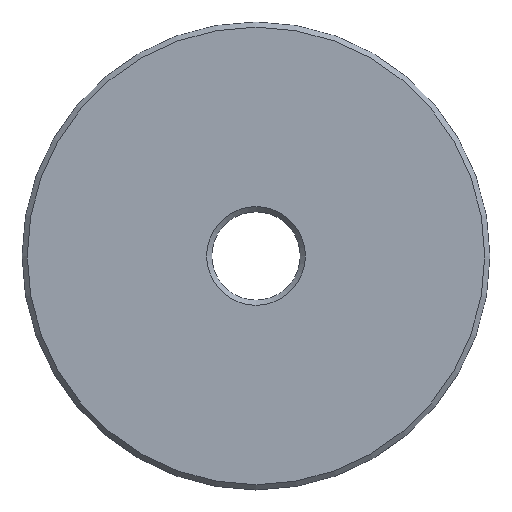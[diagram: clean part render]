
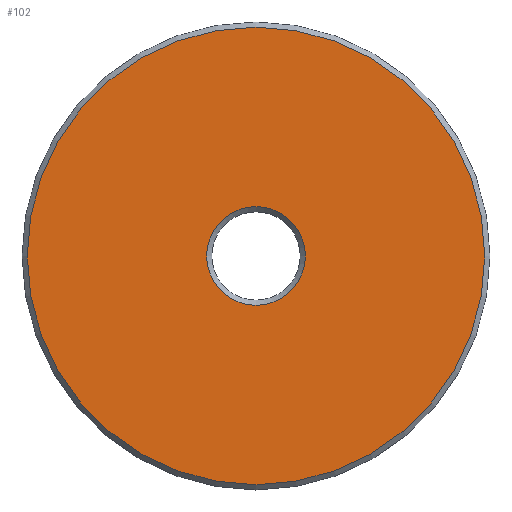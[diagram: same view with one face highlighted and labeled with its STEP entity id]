
A CAD part, top view. The second image highlights one B-rep face of the part: STEP entity #102.
In plain terms, the highlighted planar face has unit normal (0, 0, 1).
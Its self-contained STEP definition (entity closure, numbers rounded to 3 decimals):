
#102=ADVANCED_FACE('',(#112,#113),#110,.T.);
#110=PLANE('',#187);
#112=FACE_BOUND('',#128,.T.);
#113=FACE_BOUND('',#129,.T.);
#128=EDGE_LOOP('',(#144));
#129=EDGE_LOOP('',(#145));
#144=ORIENTED_EDGE('',*,*,#168,.T.);
#145=ORIENTED_EDGE('',*,*,#169,.T.);
#160=VERTEX_POINT('',#237);
#161=VERTEX_POINT('',#239);
#168=EDGE_CURVE('',#160,#160,#176,.T.);
#169=EDGE_CURVE('',#161,#161,#177,.T.);
#176=CIRCLE('',#185,4.75);
#177=CIRCLE('',#186,22.);
#185=AXIS2_PLACEMENT_3D('',#236,#203,#204);
#186=AXIS2_PLACEMENT_3D('',#238,#205,#206);
#187=AXIS2_PLACEMENT_3D('',#240,#207,#208);
#203=DIRECTION('',(0.,0.,-1.));
#204=DIRECTION('',(1.,0.,0.));
#205=DIRECTION('',(0.,0.,1.));
#206=DIRECTION('',(1.,0.,0.));
#207=DIRECTION('',(0.,0.,1.));
#208=DIRECTION('',(1.,0.,0.));
#236=CARTESIAN_POINT('',(0.,0.,5.));
#237=CARTESIAN_POINT('',(4.75,0.,5.));
#238=CARTESIAN_POINT('',(0.,0.,5.));
#239=CARTESIAN_POINT('',(22.,0.,5.));
#240=CARTESIAN_POINT('',(0.,0.,5.));
